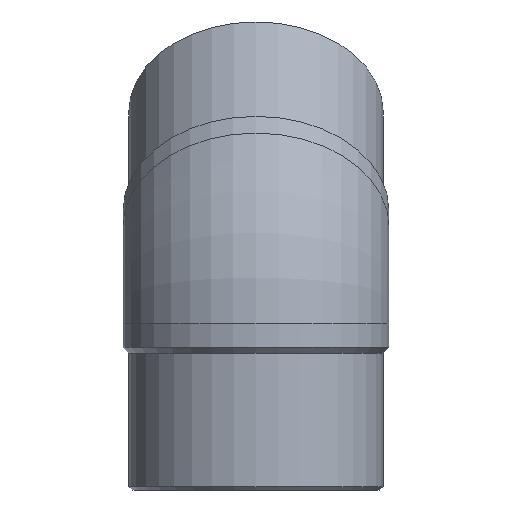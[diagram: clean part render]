
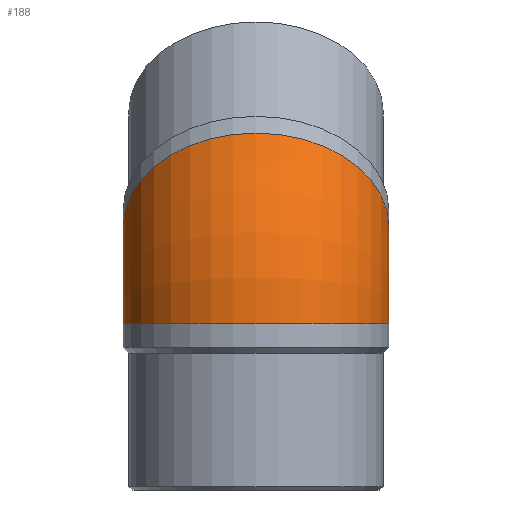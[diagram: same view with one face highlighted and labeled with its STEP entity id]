
A CAD part, left-side view. The second image highlights one B-rep face of the part: STEP entity #188.
In plain terms, the highlighted toroidal (fillet/blend) face has major radius 120.711 mm and minor radius 117.5 mm.
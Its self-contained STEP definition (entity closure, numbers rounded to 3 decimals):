
#20=TOROIDAL_SURFACE('',#225,120.711,117.5);
#53=ORIENTED_EDGE('',*,*,#86,.F.);
#54=ORIENTED_EDGE('',*,*,#87,.T.);
#86=EDGE_CURVE('',#104,#104,#118,.F.);
#87=EDGE_CURVE('',#105,#105,#119,.F.);
#104=VERTEX_POINT('',#347);
#105=VERTEX_POINT('',#350);
#118=CIRCLE('',#224,117.5);
#119=CIRCLE('',#226,117.5);
#136=EDGE_LOOP('',(#53));
#137=EDGE_LOOP('',(#54));
#163=FACE_BOUND('',#136,.T.);
#164=FACE_BOUND('',#137,.T.);
#188=ADVANCED_FACE('',(#163,#164),#20,.T.);
#224=AXIS2_PLACEMENT_3D('',#346,#270,#271);
#225=AXIS2_PLACEMENT_3D('',#348,#272,#273);
#226=AXIS2_PLACEMENT_3D('',#349,#274,#275);
#270=DIRECTION('',(-0.707,0.,-0.707));
#271=DIRECTION('',(0.707,0.,-0.707));
#272=DIRECTION('',(0.,1.,0.));
#273=DIRECTION('',(0.,0.,1.));
#274=DIRECTION('',(0.,0.,-1.));
#275=DIRECTION('',(1.,0.,0.));
#346=CARTESIAN_POINT('',(35.355,0.,35.355));
#347=CARTESIAN_POINT('',(118.44,0.,-47.73));
#348=CARTESIAN_POINT('',(120.711,0.,-50.));
#349=CARTESIAN_POINT('',(0.,0.,-50.));
#350=CARTESIAN_POINT('',(117.5,0.,-50.));
